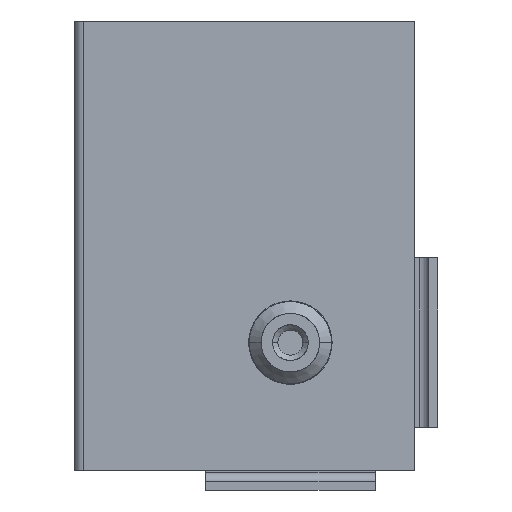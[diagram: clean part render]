
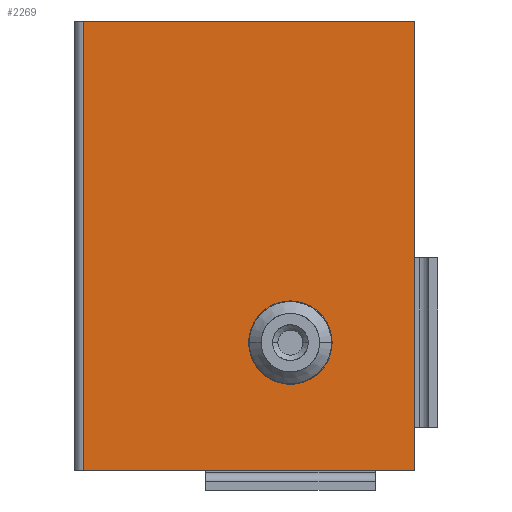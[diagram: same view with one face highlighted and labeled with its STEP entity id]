
A CAD part, left-side view. The second image highlights one B-rep face of the part: STEP entity #2269.
In plain terms, the highlighted planar face has unit normal (-1, 0, 0).
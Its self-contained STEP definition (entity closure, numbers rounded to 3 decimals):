
#2188=DIRECTION('',(0.,0.,1.));
#2189=VECTOR('',#2188,50.2);
#2190=CARTESIAN_POINT('',(-29.465,-1.02,0.));
#2191=LINE('',#2190,#2189);
#2192=DIRECTION('',(0.,-1.,0.));
#2193=VECTOR('',#2192,37.08);
#2194=CARTESIAN_POINT('',(-29.465,-1.02,50.2));
#2195=LINE('',#2194,#2193);
#2196=DIRECTION('',(0.,0.,-1.));
#2197=VECTOR('',#2196,50.2);
#2198=CARTESIAN_POINT('',(-29.465,-38.1,50.2));
#2199=LINE('',#2198,#2197);
#2200=DIRECTION('',(0.,1.,0.));
#2201=VECTOR('',#2200,37.08);
#2202=CARTESIAN_POINT('',(-29.465,-38.1,0.));
#2203=LINE('',#2202,#2201);
#2204=CARTESIAN_POINT('',(-29.465,-24.2,16.8));
#2205=CARTESIAN_POINT('',(-29.465,-23.987,16.799));
#2206=CARTESIAN_POINT('',(-29.465,-23.576,16.748));
#2207=CARTESIAN_POINT('',(-29.465,-22.998,16.521));
#2208=CARTESIAN_POINT('',(-29.465,-22.499,16.165));
#2209=CARTESIAN_POINT('',(-29.465,-22.103,15.705));
#2210=CARTESIAN_POINT('',(-29.465,-21.833,15.174));
#2211=CARTESIAN_POINT('',(-29.465,-21.694,14.595));
#2212=CARTESIAN_POINT('',(-29.465,-21.695,13.994));
#2213=CARTESIAN_POINT('',(-29.465,-21.837,13.414));
#2214=CARTESIAN_POINT('',(-29.465,-22.114,12.878));
#2215=CARTESIAN_POINT('',(-29.465,-22.516,12.42));
#2216=CARTESIAN_POINT('',(-29.465,-23.014,12.072));
#2217=CARTESIAN_POINT('',(-29.465,-23.587,11.85));
#2218=CARTESIAN_POINT('',(-29.465,-23.99,11.801));
#2219=CARTESIAN_POINT('',(-29.465,-24.2,11.8));
#2221=CARTESIAN_POINT('',(-29.465,-24.2,11.8));
#2222=CARTESIAN_POINT('',(-29.465,-24.413,11.801));
#2223=CARTESIAN_POINT('',(-29.465,-24.824,11.852));
#2224=CARTESIAN_POINT('',(-29.465,-25.402,12.079));
#2225=CARTESIAN_POINT('',(-29.465,-25.901,12.435));
#2226=CARTESIAN_POINT('',(-29.465,-26.297,12.895));
#2227=CARTESIAN_POINT('',(-29.465,-26.567,13.426));
#2228=CARTESIAN_POINT('',(-29.465,-26.706,14.005));
#2229=CARTESIAN_POINT('',(-29.465,-26.705,14.606));
#2230=CARTESIAN_POINT('',(-29.465,-26.563,15.186));
#2231=CARTESIAN_POINT('',(-29.465,-26.286,15.722));
#2232=CARTESIAN_POINT('',(-29.465,-25.884,16.18));
#2233=CARTESIAN_POINT('',(-29.465,-25.386,16.528));
#2234=CARTESIAN_POINT('',(-29.465,-24.813,16.75));
#2235=CARTESIAN_POINT('',(-29.465,-24.41,16.799));
#2236=CARTESIAN_POINT('',(-29.465,-24.2,16.8));
#2238=CARTESIAN_POINT('',(-29.465,-1.02,0.));
#2239=CARTESIAN_POINT('',(-29.465,-1.02,50.2));
#2240=VERTEX_POINT('',#2238);
#2241=VERTEX_POINT('',#2239);
#2242=CARTESIAN_POINT('',(-29.465,-38.1,50.2));
#2243=VERTEX_POINT('',#2242);
#2244=CARTESIAN_POINT('',(-29.465,-38.1,0.));
#2245=VERTEX_POINT('',#2244);
#2246=VERTEX_POINT('',#2204);
#2247=VERTEX_POINT('',#2219);
#2248=CARTESIAN_POINT('',(-29.465,-19.56,25.1));
#2249=DIRECTION('',(1.,0.,0.));
#2250=DIRECTION('',(0.,-1.,0.));
#2251=AXIS2_PLACEMENT_3D('',#2248,#2249,#2250);
#2252=PLANE('',#2251);
#2254=ORIENTED_EDGE('',*,*,#2253,.T.);
#2256=ORIENTED_EDGE('',*,*,#2255,.T.);
#2258=ORIENTED_EDGE('',*,*,#2257,.T.);
#2260=ORIENTED_EDGE('',*,*,#2259,.T.);
#2261=EDGE_LOOP('',(#2254,#2256,#2258,#2260));
#2262=FACE_OUTER_BOUND('',#2261,.F.);
#2264=ORIENTED_EDGE('',*,*,#2263,.T.);
#2266=ORIENTED_EDGE('',*,*,#2265,.T.);
#2267=EDGE_LOOP('',(#2264,#2266));
#2268=FACE_BOUND('',#2267,.F.);
#2220=B_SPLINE_CURVE_WITH_KNOTS('',3,(#2204,#2205,#2206,#2207,#2208,#2209,#2210,
#2211,#2212,#2213,#2214,#2215,#2216,#2217,#2218,#2219),.UNSPECIFIED.,.F.,.F.,(4,
1,1,1,1,1,1,1,1,1,1,1,1,4),(0.,0.077,0.154,
0.231,0.308,0.385,0.462,
0.538,0.615,0.692,0.769,
0.846,0.923,1.),.UNSPECIFIED.);
#2237=B_SPLINE_CURVE_WITH_KNOTS('',3,(#2221,#2222,#2223,#2224,#2225,#2226,#2227,
#2228,#2229,#2230,#2231,#2232,#2233,#2234,#2235,#2236),.UNSPECIFIED.,.F.,.F.,(4,
1,1,1,1,1,1,1,1,1,1,1,1,4),(0.,0.077,0.154,
0.231,0.308,0.385,0.462,
0.538,0.615,0.692,0.769,
0.846,0.923,1.),.UNSPECIFIED.);
#2253=EDGE_CURVE('',#2240,#2241,#2191,.T.);
#2255=EDGE_CURVE('',#2241,#2243,#2195,.T.);
#2257=EDGE_CURVE('',#2243,#2245,#2199,.T.);
#2259=EDGE_CURVE('',#2245,#2240,#2203,.T.);
#2263=EDGE_CURVE('',#2246,#2247,#2220,.T.);
#2265=EDGE_CURVE('',#2247,#2246,#2237,.T.);
#2269=ADVANCED_FACE('',(#2262,#2268),#2252,.F.);
